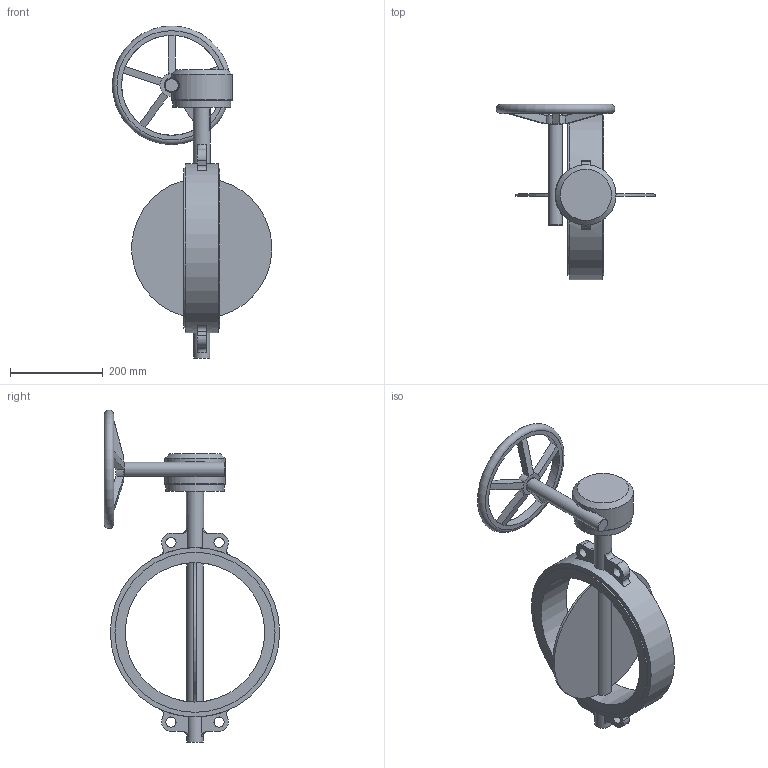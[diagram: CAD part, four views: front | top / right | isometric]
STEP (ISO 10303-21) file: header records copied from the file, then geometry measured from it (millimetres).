
FILE_DESCRIPTION(('STEP AP203'), '1');
FILE_NAME('青蜮铕 017W.Y_DN300_PN10_疱潴牝铕', '', ('UNSPECIFIED'), ('UNSPECIFIED'), 'ASCON STEP Converter 1.6', 'ASCON Math Kernel', '');
FILE_SCHEMA(('CONFIG_CONTROL_DESIGN'));
Length unit declared in the file: millimetre
Bounding box: 342.69 x 377.1 x 714 mm (x, y, z)
Volume: 4976033.2 mm3; surface area: 577751.4 mm2
Topology: 1 solids, 1 shells, 138 faces, 335 edges, 208 vertices
Faces by surface type: plane 64, cylinder 45, cone 19, torus 8, bspline 2
Full cylindrical faces by diameter (mm): 10.106 x4, 12 x4, 22 x4, 30 x1, 35 x2, 37 x1, 125 x1, 130 x1, 215 x1, 300 x1, 344.2 x2, 364.2 x1
Entity records: 6980 total; most frequent: CARTESIAN_POINT 2717, DIRECTION 668, ORIENTED_EDGE 586, EDGE_CURVE 293, AXIS2_PLACEMENT_3D 282, EDGE_LOOP 207, VERTEX_POINT 204, CIRCLE 145
